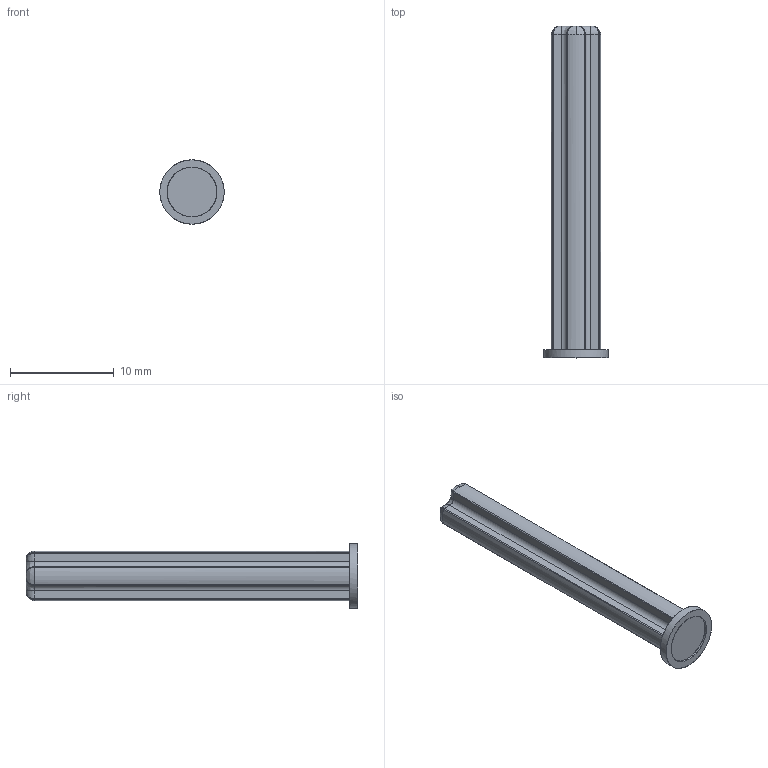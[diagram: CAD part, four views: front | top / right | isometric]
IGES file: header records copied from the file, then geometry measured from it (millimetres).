
Start section: C
Global section: file name: Gray_4560177_JCA.iges; native system: By Siemens PLM Incorporated; preprocessor: XPlus GENERIC/IGES 26.1.183; author: Author; organization: Title; date: 20250721.235958; units: millimetre
Bounding box: 6.19 x 32 x 6.2 mm (x, y, z)
Surface area: 602.8 mm2 (no closed solid volume)
Topology: 0 solids, 0 shells, 56 faces, 264 edges, 256 vertices
Faces by surface type: bspline 56
